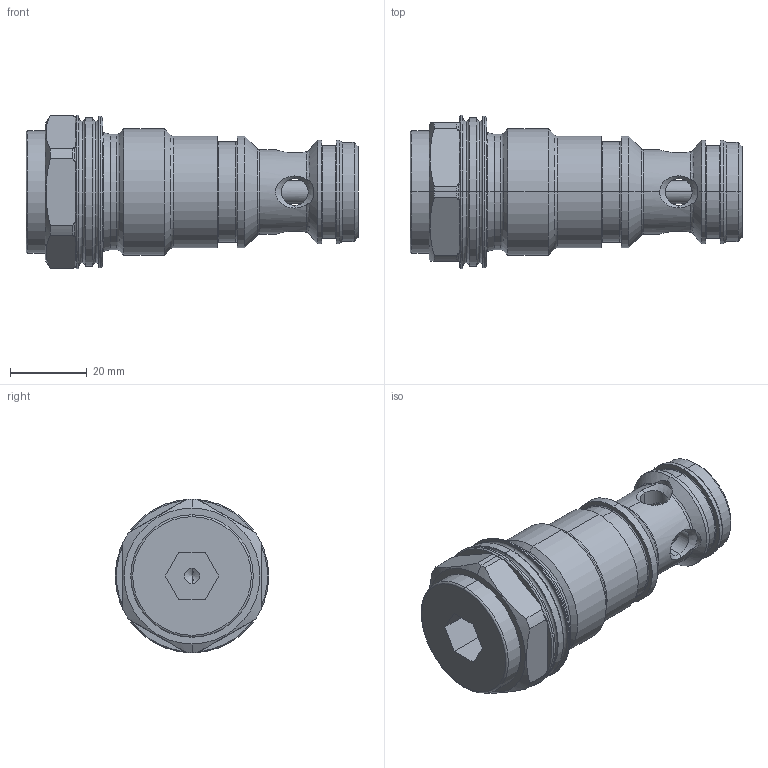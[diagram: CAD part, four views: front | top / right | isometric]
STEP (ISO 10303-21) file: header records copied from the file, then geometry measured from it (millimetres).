
FILE_DESCRIPTION (( 'STEP AP214' ), '1' );
FILE_NAME ('RNXPM33.STEP', '2014-08-11T13:47:49', ( '' ), ( '' ), 'SwSTEP 2.0', 'SolidWorks 2014', '' );
FILE_SCHEMA (( 'AUTOMOTIVE_DESIGN' ));
Length unit declared in the file: millimetre
Products named in the file (2): RNXPM33
Bounding box: 86.5 x 40 x 40 mm (x, y, z)
Volume: 54791.7 mm3; surface area: 15938 mm2
Topology: 2 solids, 4 shells, 188 faces, 447 edges, 271 vertices
Faces by surface type: cylinder 65, plane 43, torus 42, cone 38
Entity records: 8165 total; most frequent: CARTESIAN_POINT 1690, DIRECTION 961, ORIENTED_EDGE 890, EDGE_CURVE 445, AXIS2_PLACEMENT_3D 412, VERTEX_POINT 271, CIRCLE 222, EDGE_LOOP 206
